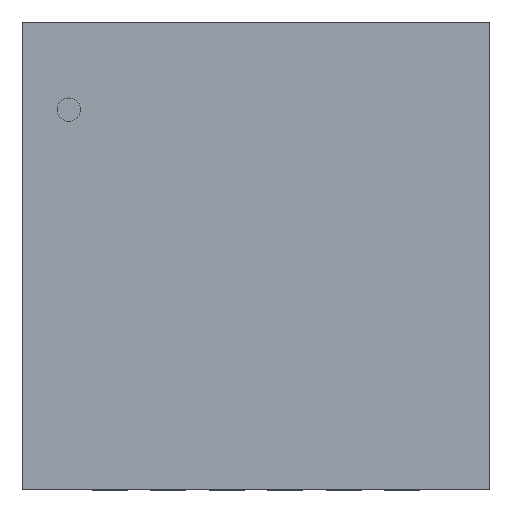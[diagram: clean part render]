
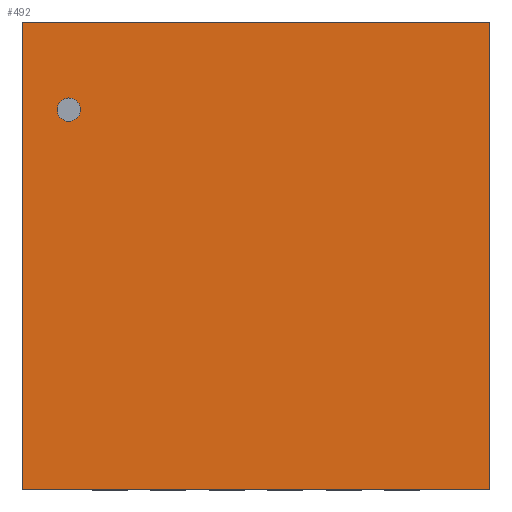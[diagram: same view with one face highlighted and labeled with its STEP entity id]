
A CAD part, top view. The second image highlights one B-rep face of the part: STEP entity #492.
In plain terms, the highlighted planar face has unit normal (0, 0, 1).
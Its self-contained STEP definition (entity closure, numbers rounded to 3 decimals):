
#268=CARTESIAN_POINT('',(2.0,-2.0,1.651));
#267=VERTEX_POINT('',#268);
#278=CARTESIAN_POINT('',(-2.0,-2.0,1.651));
#277=VERTEX_POINT('',#278);
#276=EDGE_CURVE('',#277,#267,#281,.T.);
#281=LINE('',#278,#283);
#283=VECTOR('',#284,4.);
#284=DIRECTION('',(1.0,0.0,0.0));
#317=CARTESIAN_POINT('',(2.0,2.0,1.651));
#316=VERTEX_POINT('',#317);
#325=EDGE_CURVE('',#267,#316,#330,.T.);
#330=LINE('',#268,#332);
#332=VECTOR('',#333,4.);
#333=DIRECTION('',(0.0,1.0,0.0));
#366=CARTESIAN_POINT('',(-2.0,2.0,1.651));
#365=VERTEX_POINT('',#366);
#374=EDGE_CURVE('',#316,#365,#379,.T.);
#379=LINE('',#317,#381);
#381=VECTOR('',#382,4.);
#382=DIRECTION('',(-1.0,0.0,0.0));
#423=EDGE_CURVE('',#365,#277,#428,.T.);
#428=LINE('',#366,#430);
#430=VECTOR('',#431,4.);
#431=DIRECTION('',(0.0,-1.0,0.0));
#492=ADVANCED_FACE('',(#498),#493,.T.);
#493=PLANE('',#494);
#494=AXIS2_PLACEMENT_3D('',#495,#496,#497);
#495=CARTESIAN_POINT('',(-2.0,-2.0,1.651));
#496=DIRECTION('',(0.0,0.0,1.0));
#497=DIRECTION('',(0.,1.,0.));
#498=FACE_OUTER_BOUND('',#499,.T.);
#499=EDGE_LOOP('',(#500,#510,#520,#530));
#500=ORIENTED_EDGE('',*,*,#276,.T.);
#510=ORIENTED_EDGE('',*,*,#325,.T.);
#520=ORIENTED_EDGE('',*,*,#374,.T.);
#530=ORIENTED_EDGE('',*,*,#423,.T.);
